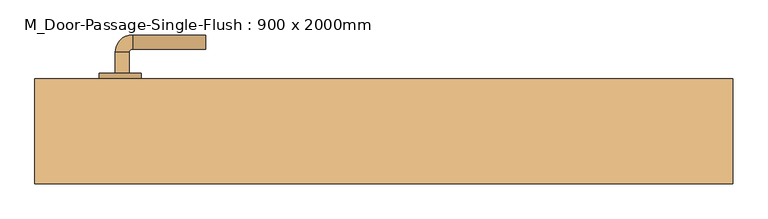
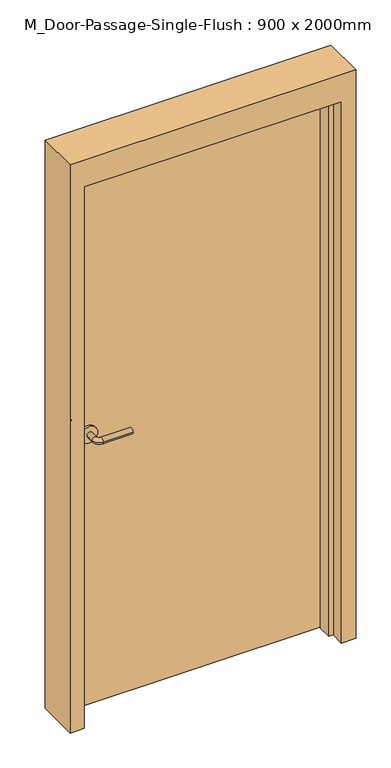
"""IFC4 building model written with IfcOpenShell, lengths in millimetres: door geometry, M_Door-Passage-Single-Flush : 900 x 2000mm."""

from ifc_helpers import new_model, si_unit, point, frame, frame_2d, origin, origin_with_axes, place, context, project, spatial, polyline, circle_curve, ellipse_curve, trimmed, segment, composite_curve, outline, extrude, faceted_brep, source, transform, mapped, element, save
from ifc_brep_helpers import plane_surface, cylinder_surface, revolved_surface, advanced_brep


def m_door_passage_single_flush_900_x_2000mm_70bd3cdf(model_context):
    return source(origin(), model_context, "Body", "SolidModel", [
        advanced_brep(
        [(-384.990625, -2.4, 1000.0), (-364.990625, -2.4, 1000.0), (-364.990625, -32.4, 1000.0), (-384.990625, -32.4, 1000.0), (-359.990625, -37.4, 1000.0), (-359.990625, -57.4, 1000.0), (-254.990625, -57.4, 1000.0), (-254.990625, -37.4, 1000.0)],
        [
            (0, 1, circle_curve(frame((-374.990625, -2.4, 1000.0), z_axis=(0.0, 1.0, 0.0), x_axis=(1.0, 0.0, 0.0)), 10.0)),
            (1, 0, circle_curve(frame((-374.990625, -2.4, 1000.0), z_axis=(0.0, 1.0, 0.0), x_axis=(1.0, 0.0, 0.0)), 10.0)),
            (1, 2),
            (2, 3, circle_curve(frame((-374.990625, -32.4, 1000.0), z_axis=(0.0, 1.0, 0.0), x_axis=(1.0, 0.0, 0.0)), 10.0)),
            (3, 0),
            (3, 2, circle_curve(frame((-374.990625, -32.4, 1000.0), z_axis=(0.0, 1.0, 0.0), x_axis=(1.0, 0.0, 0.0)), 10.0)),
            (4, 5, circle_curve(frame((-359.990625, -47.4, 1000.0), z_axis=(-1.0, 0.0, 0.0), x_axis=(0.0, 1.0, 0.0)), 10.0)),
            (5, 3, circle_curve(frame((-359.990625, -32.4, 1000.0), z_axis=(0.0, 0.0, -1.0), x_axis=(-1.0, 0.0, 0.0)), 25.0)),
            (2, 4, circle_curve(frame((-359.990625, -32.4, 1000.0), z_axis=(0.0, 0.0, 1.0), x_axis=(-1.0, 0.0, 0.0)), 5.0)),
            (5, 4, circle_curve(frame((-359.990625, -47.4, 1000.0), z_axis=(-1.0, 0.0, 0.0), x_axis=(0.0, 1.0, 0.0)), 10.0)),
            (6, 7, circle_curve(frame((-254.990625, -47.4, 1000.0), z_axis=(1.0, 0.0, 0.0), x_axis=(0.0, 1.0, 0.0)), 10.0)),
            (7, 6, circle_curve(frame((-254.990625, -47.4, 1000.0), z_axis=(1.0, 0.0, 0.0), x_axis=(0.0, 1.0, 0.0)), 10.0)),
            (4, 7),
            (6, 5),
        ],
        [
            plane_surface(frame((-374.990625, -2.4, 1000.0), z_axis=(0.0, 1.0, 0.0), x_axis=(0.0, 0.0, 1.0))),
            cylinder_surface(frame((-374.990625, -2.4, 1000.0), z_axis=(0.0, 1.0, 0.0), x_axis=(1.0, 0.0, 0.0)), 10.0),
            revolved_surface(trimmed(ellipse_curve(frame((-374.990625, -32.4, 1000.0), z_axis=(0.0, -1.0, 0.0), x_axis=(1.0, 0.0, 0.0)), 10.0, 10.0), [point((-384.990625, -32.4, 1000.0))], [point((-364.990625, -32.4, 1000.0))], True, "CARTESIAN"), (-359.990625, -32.4, 1000.0), (0.0, 0.0, -1.0)),
            revolved_surface(trimmed(ellipse_curve(frame((-374.990625, -32.4, 1000.0), z_axis=(0.0, -1.0, 0.0), x_axis=(1.0, 0.0, 0.0)), 10.0, 10.0), [point((-364.990625, -32.4, 1000.0))], [point((-384.990625, -32.4, 1000.0))], True, "CARTESIAN"), (-359.990625, -32.4, 1000.0), (0.0, 0.0, -1.0)),
            plane_surface(frame((-254.990625, -47.4, 1000.0), z_axis=(1.0, 0.0, 0.0), x_axis=(0.0, 0.0, 1.0))),
            cylinder_surface(frame((-359.990625, -47.4, 1000.0), z_axis=(-1.0, 0.0, 0.0), x_axis=(0.0, 1.0, 0.0)), 10.0),
        ],
        [
            (0, [[1, 2]]),
            (1, [[3, 4, 5, -2]]),
            (1, [[-5, 6, -3, -1]]),
            (2, [[7, 8, -4, 9]]),
            (3, [[10, -9, -6, -8]]),
            (4, [[11, 12]]),
            (5, [[13, -11, 14, -7]]),
            (5, [[-14, -12, -13, -10]]),
        ],
    ),
        extrude(outline(composite_curve([segment(trimmed(circle_curve(frame_2d((1000.0, -377.490625)), 30.0), [point((1000.0, -407.490625))], [point((1000.0, -347.490625))], False, "CARTESIAN"), True, "CONTINUOUS"), segment(trimmed(circle_curve(frame_2d((1000.0, -377.490625)), 30.0), [point((1000.0, -347.490625))], [point((1000.0, -407.490625))], False, "CARTESIAN"), True, "CONTINUOUS")], self_intersect=False)), frame((0.0, -2.4, 0.0), z_axis=(0.0, 1.0, 0.0), x_axis=(0.0, 0.0, 1.0)), (0.0, 0.0, 1.0), 8.0),
        advanced_brep(
        [(-384.990625, 58.6, 1000.0), (-364.990625, 58.6, 1000.0), (-384.990625, 88.6, 1000.0), (-364.990625, 88.6, 1000.0), (-359.990625, 93.6, 1000.0), (-359.990625, 113.6, 1000.0), (-254.990625, 113.6, 1000.0), (-254.990625, 93.6, 1000.0)],
        [
            (0, 1, circle_curve(frame((-374.990625, 58.6, 1000.0), z_axis=(0.0, -1.0, 0.0), x_axis=(1.0, 0.0, 0.0)), 10.0)),
            (1, 0, circle_curve(frame((-374.990625, 58.6, 1000.0), z_axis=(0.0, -1.0, 0.0), x_axis=(1.0, 0.0, 0.0)), 10.0)),
            (0, 2),
            (2, 3, circle_curve(frame((-374.990625, 88.6, 1000.0), z_axis=(0.0, -1.0, 0.0), x_axis=(1.0, 0.0, 0.0)), 10.0)),
            (3, 1),
            (3, 2, circle_curve(frame((-374.990625, 88.6, 1000.0), z_axis=(0.0, -1.0, 0.0), x_axis=(1.0, 0.0, 0.0)), 10.0)),
            (4, 3, circle_curve(frame((-359.990625, 88.6, 1000.0), z_axis=(0.0, 0.0, 1.0), x_axis=(-1.0, 0.0, 0.0)), 5.0)),
            (2, 5, circle_curve(frame((-359.990625, 88.6, 1000.0), z_axis=(0.0, 0.0, -1.0), x_axis=(-1.0, 0.0, 0.0)), 25.0)),
            (5, 4, circle_curve(frame((-359.990625, 103.6, 1000.0), z_axis=(-1.0, 0.0, 0.0), x_axis=(0.0, -1.0, 0.0)), 10.0)),
            (4, 5, circle_curve(frame((-359.990625, 103.6, 1000.0), z_axis=(-1.0, 0.0, 0.0), x_axis=(0.0, -1.0, 0.0)), 10.0)),
            (6, 7, circle_curve(frame((-254.990625, 103.6, 1000.0), z_axis=(1.0, 0.0, 0.0), x_axis=(0.0, -1.0, 0.0)), 10.0)),
            (7, 6, circle_curve(frame((-254.990625, 103.6, 1000.0), z_axis=(1.0, 0.0, 0.0), x_axis=(0.0, -1.0, 0.0)), 10.0)),
            (5, 6),
            (7, 4),
        ],
        [
            plane_surface(frame((-374.990625, 58.6, 1000.0), z_axis=(0.0, -1.0, 0.0), x_axis=(0.0, 0.0, 1.0))),
            cylinder_surface(frame((-374.990625, 58.6, 1000.0), z_axis=(0.0, -1.0, 0.0), x_axis=(1.0, 0.0, 0.0)), 10.0),
            revolved_surface(trimmed(ellipse_curve(frame((-374.990625, 88.6, 1000.0), z_axis=(0.0, -1.0, 0.0), x_axis=(1.0, 0.0, 0.0)), 10.0, 10.0), [point((-384.990625, 88.6, 1000.0))], [point((-364.990625, 88.6, 1000.0))], True, "CARTESIAN"), (-359.990625, 88.6, 1000.0), (0.0, 0.0, -1.0)),
            revolved_surface(trimmed(ellipse_curve(frame((-374.990625, 88.6, 1000.0), z_axis=(0.0, -1.0, 0.0), x_axis=(1.0, 0.0, 0.0)), 10.0, 10.0), [point((-364.990625, 88.6, 1000.0))], [point((-384.990625, 88.6, 1000.0))], True, "CARTESIAN"), (-359.990625, 88.6, 1000.0), (0.0, 0.0, -1.0)),
            plane_surface(frame((-254.990625, 103.6, 1000.0), z_axis=(1.0, 0.0, 0.0), x_axis=(0.0, 0.0, 1.0))),
            cylinder_surface(frame((-359.990625, 103.6, 1000.0), z_axis=(-1.0, 0.0, 0.0), x_axis=(0.0, -1.0, 0.0)), 10.0),
        ],
        [
            (0, [[1, 2]]),
            (1, [[-1, 3, 4, 5]]),
            (1, [[-2, -5, 6, -3]]),
            (2, [[7, -4, 8, 9]]),
            (3, [[-8, -6, -7, 10]]),
            (4, [[11, 12]]),
            (5, [[-9, 13, -12, 14]]),
            (5, [[-10, -14, -11, -13]]),
        ],
    ),
        extrude(outline(composite_curve([segment(trimmed(circle_curve(frame_2d((1000.0, -377.490625)), 30.0), [point((1000.0, -407.490625))], [point((1000.0, -347.490625))], False, "CARTESIAN"), True, "CONTINUOUS"), segment(trimmed(circle_curve(frame_2d((1000.0, -377.490625)), 30.0), [point((1000.0, -347.490625))], [point((1000.0, -407.490625))], False, "CARTESIAN"), True, "CONTINUOUS")], self_intersect=False)), frame((0.0, 50.6, 0.0), z_axis=(0.0, 1.0, 0.0), x_axis=(0.0, 0.0, 1.0)), (0.0, 0.0, 1.0), 8.0),
        faceted_brep([(450.0, 0.8375, 0.0), (450.0, 50.6, 0.0), (500.0, 50.6, 0.0), (500.0, -99.4, 0.0), (450.0, -99.4, 0.0), (450.0, -50.1875, 0.0), (434.125, -50.1875, 0.0), (434.125, 0.8375, 0.0), (450.0, 0.8375, 2000.0), (450.0, 50.6, 2000.0), (-450.0, 50.6, 2000.0), (-450.0, 50.6, 0.0), (-500.0, 50.6, 0.0), (-500.0, 50.6, 2100.0), (500.0, 50.6, 2100.0), (500.0, -99.4, 2100.0), (-500.0, -99.4, 2100.0), (-500.0, -99.4, 0.0), (-450.0, -99.4, 0.0), (-450.0, -99.4, 2000.0), (450.0, -99.4, 2000.0), (450.0, -50.1875, 2000.0), (-450.0, -50.1875, 2000.0), (-450.0, -50.1875, 0.0), (-434.125, -50.1875, 0.0), (-434.125, -50.1875, 1984.125), (434.125, -50.1875, 1984.125), (434.125, 0.8375, 1984.125), (-434.125, 0.8375, 1984.125), (-434.125, 0.8375, 0.0), (-450.0, 0.8375, 0.0), (-450.0, 0.8375, 2000.0)], [[[0, 1, 2, 3, 4, 5, 6, 7]], [[1, 0, 8, 9]], [[2, 1, 9, 10, 11, 12, 13, 14]], [[3, 2, 14, 15]], [[4, 3, 15, 16, 17, 18, 19, 20]], [[5, 4, 20, 21]], [[6, 5, 21, 22, 23, 24, 25, 26]], [[7, 6, 26, 27]], [[0, 7, 27, 28, 29, 30, 31, 8]], [[9, 8, 31, 10]], [[20, 19, 22, 21]], [[26, 25, 28, 27]], [[12, 11, 30, 29, 24, 23, 18, 17]], [[11, 10, 31, 30]], [[13, 12, 17, 16]], [[19, 18, 23, 22]], [[25, 24, 29, 28]], [[15, 14, 13, 16]]]),
        extrude(outline(polyline([(450.0, 5.6), (-450.0, 5.6), (-450.0, 50.6), (450.0, 50.6), (450.0, 5.6)])), origin_with_axes(), (0.0, 0.0, 1.0), 2000.0),
    ])


if __name__ == "__main__":
    model = new_model("IFC4")
    model_context = context("Model", 3, world=origin())
    ifc_project = project(units=[si_unit("LENGTHUNIT", "METRE", prefix="MILLI")], contexts=[model_context])
    site = spatial("IfcSite", under=ifc_project)
    building = spatial("IfcBuilding", under=site)
    placement = place(None, origin())
    m_door_passage_single_flush_900_x_2000mm_shape = m_door_passage_single_flush_900_x_2000mm_70bd3cdf(model_context)
    element("IfcDoor", 1, ObjectType="M_Door-Passage-Single-Flush : 900 x 2000mm", at=placement, inside=building, context=model_context, shape_type="MappedRepresentation", body=[
        mapped(m_door_passage_single_flush_900_x_2000mm_shape, transform((0.0, 0.0, 0.0), x_axis=(1.0, 0.0, 0.0), y_axis=(0.0, 1.0, 0.0), z_axis=(0.0, 0.0, 1.0))),
    ])
    save(model, "model.ifc")
